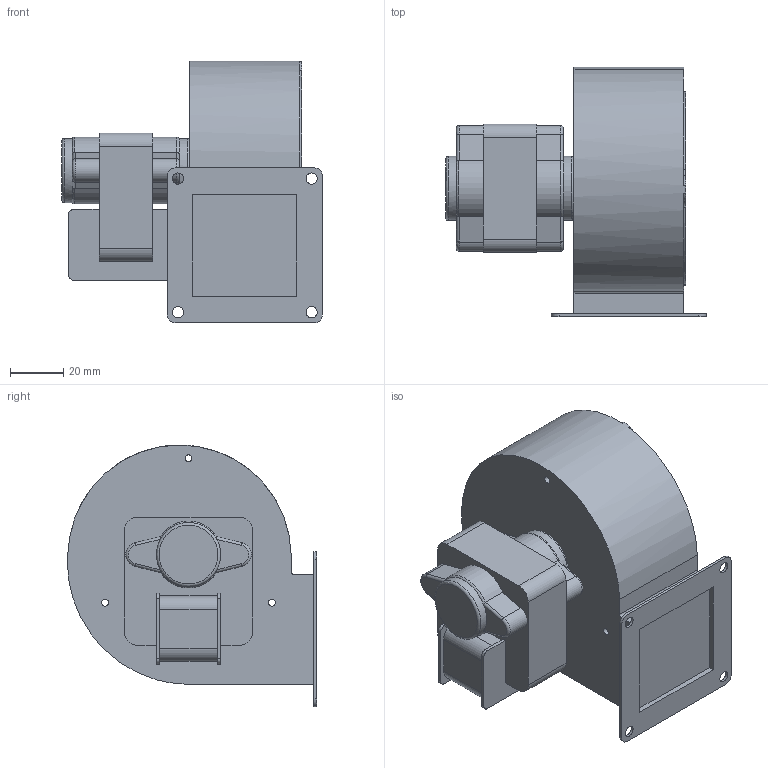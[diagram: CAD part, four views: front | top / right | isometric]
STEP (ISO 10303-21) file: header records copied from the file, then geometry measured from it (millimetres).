
FILE_DESCRIPTION(/* description */ ('Unknown'),/* implementation_level */ '2;1');
FILE_NAME(/* name */ 'CY063A2P1a-GU 型錄',/* time_stamp */ '2026-05-14T09:21:08+08:00',/* author */ ('Unknown'),/* organization */ ('Unknown'),/* preprocessor_version */ 'ST-DEVELOPER v20',/* originating_system */ 'Solid Edge',/* authorisation */ 'Unknown');
FILE_SCHEMA (('AUTOMOTIVE_DESIGN {1 0 10303 214 3 1 1}'));
Length unit declared in the file: millimetre
Products named in the file (3): CY063A2P1a-GU 型; CY063A-01+08; JM063A2P1a-GU
Assembly tree (2 placements, depth 2):
  CY063A2P1a-GU 型
    CY063A-01+08
    JM063A2P1a-GU
Bounding box: 97.5 x 93.27 x 97.96 mm (x, y, z)
Volume: 275058.8 mm3; surface area: 51210.1 mm2
Topology: 2 solids, 2 shells, 140 faces, 367 edges, 240 vertices
Faces by surface type: cylinder 68, plane 62, torus 10
Full cylindrical faces by diameter (mm): 2.6 x3, 3.5 x3, 4 x1, 4.2 x4, 6 x1, 24 x2, 50 x1
Entity records: 4382 total; most frequent: CARTESIAN_POINT 805, DIRECTION 756, ORIENTED_EDGE 696, EDGE_CURVE 348, AXIS2_PLACEMENT_3D 285, VERTEX_POINT 238, LINE 186, VECTOR 186
